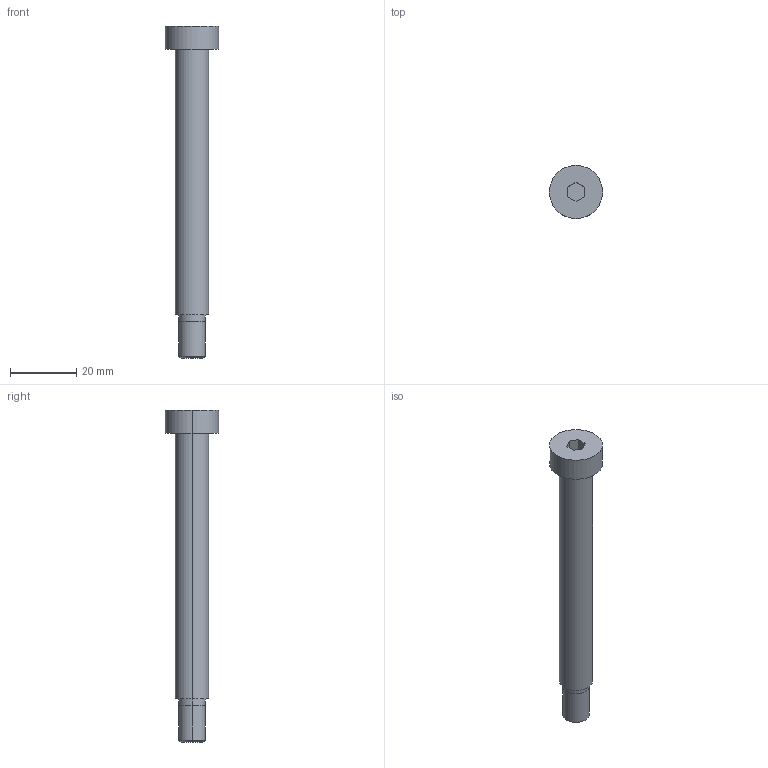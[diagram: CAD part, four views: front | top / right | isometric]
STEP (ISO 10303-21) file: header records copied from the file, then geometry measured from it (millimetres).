
FILE_DESCRIPTION (( 'STEP AP214' ), '1' );
FILE_NAME ('BruyRubio_TPM__8_x_80.STEP', '2019-12-22T23:16:16', ( '' ), ( '' ), 'SwSTEP 2.0', 'SolidWorks 2017', '' );
FILE_SCHEMA (( 'AUTOMOTIVE_DESIGN' ));
Length unit declared in the file: millimetre
Products named in the file (1): BruyRubio_TPM__8_x_80
Bounding box: 16 x 16 x 100 mm (x, y, z)
Volume: 8253.4 mm3; surface area: 4142.2 mm2
Topology: 2 solids, 2 shells, 27 faces, 56 edges, 36 vertices
Faces by surface type: plane 13, cylinder 12, cone 2
Entity records: 1066 total; most frequent: DIRECTION 136, CARTESIAN_POINT 120, ORIENTED_EDGE 112, EDGE_CURVE 56, AXIS2_PLACEMENT_3D 52, VERTEX_POINT 36, EDGE_LOOP 32, LINE 32
